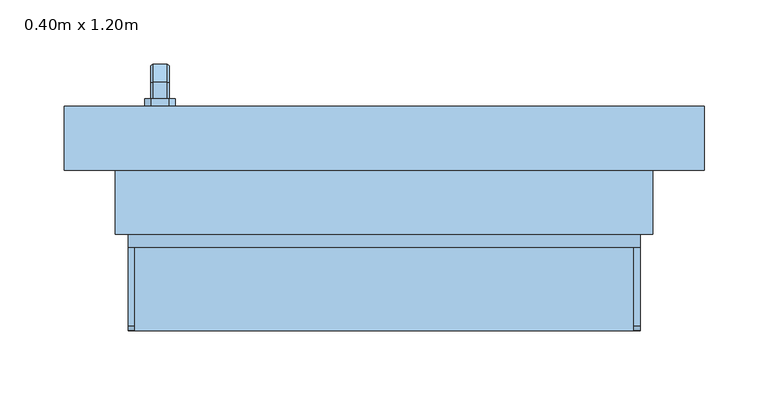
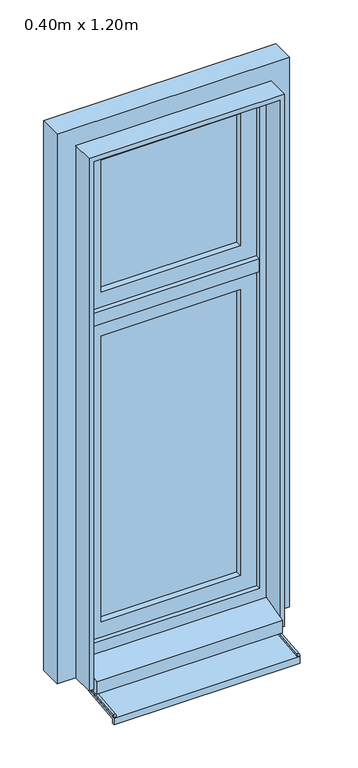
"""IFC4 building model written with IfcOpenShell, lengths in millimetres: window geometry, 1 Vantail - Imposte haute : 0.40m x 1.20m."""

import ifcopenshell
import ifcopenshell.guid

model = None  # the IFC model being written
_history = None  # IfcOwnerHistory: only IFC2X3 demands one
_inside = {}  # id of a spatial element -> (the spatial element, [elements in it])
_under = {}  # id of a project, library or spatial element -> (it, [spatial elements below it])
_declared = {}  # id of a project -> (the project, [libraries it declares])
_typed = {}  # id of a type object -> (the type object, [elements of that type])
_made_of = {}  # id of a material, layer set ... -> (it, [elements and type objects made of it])


def new_model(schema):
    """Start an empty IFC model of exactly this schema.

    Asked for "IFC4X3", IfcOpenShell would pick the latest addendum, in which some entities
    have other attributes; the version numbers below select the first issue.
    IFC2X3 requires an IfcOwnerHistory on every rooted entity: one is made here for all.
    """
    global model, _history
    if schema == "IFC4X3":
        model = ifcopenshell.file(schema_version=(4, 3, 0, 0))
    else:
        model = ifcopenshell.file(schema=schema)
    _inside.clear()
    _under.clear()
    _declared.clear()
    _typed.clear()
    _made_of.clear()
    _history = None
    if model.schema == "IFC2X3":
        org = make("IfcOrganization", Name="unknown")
        user = make(
            "IfcPersonAndOrganization",
            ThePerson=make("IfcPerson", FamilyName="unknown"),
            TheOrganization=org,
        )
        app = make(
            "IfcApplication",
            ApplicationDeveloper=org,
            Version="unknown",
            ApplicationFullName="unknown",
            ApplicationIdentifier="unknown",
        )
        _history = make(
            "IfcOwnerHistory",
            OwningUser=user,
            OwningApplication=app,
            ChangeAction="ADDED",
            CreationDate=0,
        )
    return model


def make(cls, **values):
    """One entity of the class cls with the attributes given. An attribute that is None is left unset."""
    return model.create_entity(
        cls, **{name: value for name, value in values.items() if value is not None}
    )


def rooted(cls, **values):
    """An entity with a GlobalId (a new one), such as an element, a storey or a relation."""
    return make(cls, GlobalId=ifcopenshell.guid.new(), OwnerHistory=_history, **values)


def si_unit(unit_type, name, prefix=None):
    """IfcSIUnit, for example si_unit("LENGTHUNIT", "METRE", prefix="MILLI")."""
    return make("IfcSIUnit", UnitType=unit_type, Prefix=prefix, Name=name)


def assignment(units):
    """IfcUnitAssignment: the units of a project."""
    return None if units is None else make("IfcUnitAssignment", Units=units)


def point(xyz):
    """IfcCartesianPoint."""
    return None if xyz is None else make("IfcCartesianPoint", Coordinates=xyz)


def direction(xyz):
    """IfcDirection."""
    return None if xyz is None else make("IfcDirection", DirectionRatios=xyz)


def frame(location, z_axis=None, x_axis=None):
    """IfcAxis2Placement3D, a coordinate frame: its origin and axes. An axis left out is left unset."""
    return make(
        "IfcAxis2Placement3D",
        Location=point(location),
        Axis=direction(z_axis),
        RefDirection=direction(x_axis),
    )


def frame_2d(location, x_axis=None):
    """IfcAxis2Placement2D, a coordinate frame in the plane: its origin and x axis."""
    return make(
        "IfcAxis2Placement2D", Location=point(location), RefDirection=direction(x_axis)
    )


def origin():
    """The frame at (0, 0, 0) with its axes left unset."""
    return frame((0.0, 0.0, 0.0))


def place(relative_to, where):
    """IfcLocalPlacement: puts the frame where relative to a parent placement (None: the world)."""
    return make(
        "IfcLocalPlacement", PlacementRelTo=relative_to, RelativePlacement=where
    )


def context(
    kind, dimensions, precision=None, world=None, true_north=None, identifier=None
):
    """IfcGeometricRepresentationContext, for example the 3D "Model" context."""
    return make(
        "IfcGeometricRepresentationContext",
        ContextIdentifier=identifier,
        ContextType=kind,
        CoordinateSpaceDimension=dimensions,
        Precision=precision,
        WorldCoordinateSystem=world,
        TrueNorth=true_north,
    )


def project(units=None, contexts=None):
    """IfcProject with its units and contexts."""
    return rooted(
        "IfcProject",
        Name="project",
        RepresentationContexts=contexts,
        UnitsInContext=assignment(units),
    )


def spatial(cls, under=None, at=None, **own):
    """A site, building, storey or space (cls), placed at a placement, below another one or the project."""
    s = rooted(cls, ObjectPlacement=at, **own)
    if under is not None:
        _under.setdefault(under.id(), (under, []))[1].append(s)
    return s


def polyline(points):
    """IfcPolyline through the points."""
    return make("IfcPolyline", Points=[point(p) for p in points])


def circle_curve(where, radius):
    """IfcCircle in the frame where."""
    return make("IfcCircle", Position=where, Radius=radius)


def trimmed(basis, trim1, trim2, sense, master):
    """IfcTrimmedCurve: the piece of a basis curve between two trims."""
    return make(
        "IfcTrimmedCurve",
        BasisCurve=basis,
        Trim1=trim1,
        Trim2=trim2,
        SenseAgreement=sense,
        MasterRepresentation=master,
    )


def segment(curve, same_sense, transition):
    """IfcCompositeCurveSegment."""
    return make(
        "IfcCompositeCurveSegment",
        Transition=transition,
        SameSense=same_sense,
        ParentCurve=curve,
    )


def composite_curve(segments, self_intersect=None):
    """IfcCompositeCurve: segments joined end to end."""
    return make("IfcCompositeCurve", Segments=segments, SelfIntersect=self_intersect)


def outline(outer, holes=None, kind="AREA"):
    """IfcArbitraryClosedProfileDef: a profile drawn as a closed curve; with holes, ...WithVoids."""
    if holes is None:
        return make("IfcArbitraryClosedProfileDef", ProfileType=kind, OuterCurve=outer)
    return make(
        "IfcArbitraryProfileDefWithVoids",
        ProfileType=kind,
        OuterCurve=outer,
        InnerCurves=holes,
    )


def extrude(swept, where, along, depth):
    """IfcExtrudedAreaSolid: the profile swept, set in the frame where, extruded along a direction by depth."""
    return make(
        "IfcExtrudedAreaSolid",
        SweptArea=swept,
        Position=where,
        ExtrudedDirection=direction(along),
        Depth=depth,
    )


def faces_of(points, faces, orient=None, outer=None):
    """IfcFace entities. A face is a list of loops; a loop is a list of indices into points, from 0.

    orient and outer hold one flag for each loop. By default every Orientation is true, the
    first loop of a face is its IfcFaceOuterBound and the others are IfcFaceBound.
    """
    made = []
    for i, loops in enumerate(faces):
        bounds = []
        for j, loop in enumerate(loops):
            is_outer = j == 0 if outer is None else outer[i][j]
            bounds.append(
                make(
                    "IfcFaceOuterBound" if is_outer else "IfcFaceBound",
                    Bound=make("IfcPolyLoop", Polygon=[points[k] for k in loop]),
                    Orientation=True if orient is None else orient[i][j],
                )
            )
        made.append(make("IfcFace", Bounds=bounds))
    return made


def faceted_brep(points, faces, orient=None, outer=None, voids=None):
    """IfcFacetedBrep: a solid bounded by flat faces; with voids (closed shells), ...WithVoids."""
    shared = [point(p) for p in points]
    hull = make("IfcClosedShell", CfsFaces=faces_of(shared, faces, orient, outer))
    if voids is None:
        return make("IfcFacetedBrep", Outer=hull)
    return make(
        "IfcFacetedBrepWithVoids",
        Outer=hull,
        Voids=[
            make(cls, CfsFaces=faces_of(shared, fs, o, b)) for cls, fs, o, b in voids
        ],
    )


def shape(context_of_items, identifier, shape_type, items):
    """IfcShapeRepresentation: the items that make up one representation, for example the "Body"."""
    return make(
        "IfcShapeRepresentation",
        ContextOfItems=context_of_items,
        RepresentationIdentifier=identifier,
        RepresentationType=shape_type,
        Items=items,
    )


def source(mapping_origin, context_of_items, identifier, shape_type, items):
    """IfcRepresentationMap: a shape defined once, which mapped items show again and again."""
    return make(
        "IfcRepresentationMap",
        MappingOrigin=mapping_origin,
        MappedRepresentation=shape(context_of_items, identifier, shape_type, items),
    )


def transform(
    local_origin,
    x_axis=None,
    y_axis=None,
    z_axis=None,
    scale=None,
    scale2=None,
    scale3=None,
    uniform=True,
):
    """IfcCartesianTransformationOperator3D, or its non-uniform kind. x_axis, y_axis, z_axis: its Axis1, 2, 3."""
    if uniform:
        return make(
            "IfcCartesianTransformationOperator3D",
            Axis1=direction(x_axis),
            Axis2=direction(y_axis),
            LocalOrigin=point(local_origin),
            Scale=scale,
            Axis3=direction(z_axis),
        )
    return make(
        "IfcCartesianTransformationOperator3DnonUniform",
        Axis1=direction(x_axis),
        Axis2=direction(y_axis),
        LocalOrigin=point(local_origin),
        Scale=scale,
        Axis3=direction(z_axis),
        Scale2=scale2,
        Scale3=scale3,
    )


def mapped(mapping_source, mapping_target):
    """IfcMappedItem: shows the shape of a source again, moved by a transform."""
    return make(
        "IfcMappedItem", MappingSource=mapping_source, MappingTarget=mapping_target
    )


def made_of(thing, what):
    """Note that an element or type object is made of a material, layer set ...; save() writes the relation."""
    if what is not None:
        _made_of.setdefault(what.id(), (what, []))[1].append(thing)
    return thing


def element(
    cls,
    number,
    at=None,
    inside=None,
    cuts=None,
    type_object=None,
    material=None,
    context=None,
    identifier="Body",
    shape_type=None,
    held_by="IfcProductDefinitionShape",
    body=None,
    shapes=None,
    **own,
):
    """One element of the class cls, such as IfcWall. Its Tag is "e" and its number.

    at: its placement. inside: the storey or other place that contains it. cuts: it is an
    opening in that element (IfcRelVoidsElement). A single representation is given by context,
    identifier, shape_type and body (its items); several are given by shapes. held_by: the class
    of the entity that holds the representations. save() writes the other relations.
    """
    e = rooted(cls, Tag="e%d" % number, ObjectPlacement=at, **own)
    if body is not None:
        shapes = [shape(context, identifier, shape_type, body)]
    if shapes is not None:
        e.Representation = make(held_by, Representations=shapes)
    if inside is not None:
        _inside.setdefault(inside.id(), (inside, []))[1].append(e)
    if cuts is not None:
        rooted(
            "IfcRelVoidsElement", RelatingBuildingElement=cuts, RelatedOpeningElement=e
        )
    if type_object is not None:
        _typed.setdefault(type_object.id(), (type_object, []))[1].append(e)
    return made_of(e, material)


def aggregate(whole, parts):
    """IfcRelAggregates: a whole, such as a stair, and the parts it consists of."""
    return rooted("IfcRelAggregates", RelatingObject=whole, RelatedObjects=parts)


def save(model, path):
    """Write the relations noted so far, then the file.

    IfcRelAggregates (storeys below a building ...), IfcRelContainedInSpatialStructure (elements
    in a storey), IfcRelDefinesByType, IfcRelAssociatesMaterial and IfcRelDeclares: one each for
    every whole, place, type object, material and project.
    """
    for whole, parts in _under.values():
        aggregate(whole, parts)
    for where, things in _inside.values():
        rooted(
            "IfcRelContainedInSpatialStructure",
            RelatedElements=things,
            RelatingStructure=where,
        )
    for kind, things in _typed.values():
        rooted("IfcRelDefinesByType", RelatedObjects=things, RelatingType=kind)
    for what, things in _made_of.values():
        rooted("IfcRelAssociatesMaterial", RelatedObjects=things, RelatingMaterial=what)
    for by, libraries in _declared.values():
        rooted("IfcRelDeclares", RelatingContext=by, RelatedDefinitions=libraries)
    model.write(path)


def window_0_40m_x_1_20m_34fc3aa1(model_context):
    return source(origin(), model_context, "Body", "SolidModel", [
        faceted_brep([(-169.3539903, 86.0, 1322.0339292), (-180.6460097, 86.0, 1322.0339292), (-182.0339292, 86.0, 1320.6460097), (-182.0339292, 86.0, 1309.3323012), (-180.6676988, 86.0, 1307.9660708), (-169.3323012, 86.0, 1307.9660708), (-167.9660708, 86.0, 1309.3323012), (-167.9660708, 86.0, 1320.6460097), (-167.9660708, 98.3386538, 1320.6460097), (-169.3539903, 98.9135489, 1322.0339292), (-167.9660708, 93.6523623, 1309.3323012), (-167.9660708, 100.3323012, 1302.6523623), (-167.9660708, 100.3323012, 1220.0), (-167.9660708, 111.6460097, 1220.0), (-167.9660708, 111.6460097, 1307.3386538), (-169.3323012, 93.0864511, 1307.9660708), (-180.6676988, 93.0864511, 1307.9660708), (-182.0339292, 93.6523623, 1309.3323012), (-182.0339292, 98.3386538, 1320.6460097), (-182.0339292, 111.6460097, 1307.3386538), (-182.0339292, 111.6460097, 1220.0), (-182.0339292, 100.3323012, 1220.0), (-182.0339292, 100.3323012, 1302.6523623), (-180.6460097, 98.9135489, 1322.0339292), (-169.3539903, 113.0339292, 1307.9135489), (-169.3323012, 98.9660708, 1302.0864511), (-180.6676988, 98.9660708, 1302.0864511), (-180.6460097, 113.0339292, 1307.9135489), (-169.3539903, 113.0339292, 1220.0), (-169.3323012, 98.9660708, 1220.0), (-180.6676988, 98.9660708, 1220.0), (-180.6460097, 113.0339292, 1220.0)], [[[0, 1, 2, 3, 4, 5, 6, 7]], [[7, 8, 9, 0]], [[6, 10, 11, 12, 13, 14, 8, 7]], [[5, 15, 10, 6]], [[4, 16, 15, 5]], [[3, 17, 16, 4]], [[2, 18, 19, 20, 21, 22, 17, 3]], [[1, 23, 18, 2]], [[0, 9, 23, 1]], [[8, 14, 24, 9]], [[15, 25, 11, 10]], [[16, 26, 25, 15]], [[17, 22, 26, 16]], [[23, 27, 19, 18]], [[9, 24, 27, 23]], [[28, 13, 12, 29, 30, 21, 20, 31]], [[14, 13, 28, 24]], [[25, 29, 12, 11]], [[26, 30, 29, 25]], [[22, 21, 30, 26]], [[27, 31, 20, 19]], [[24, 28, 31, 27]]]),
        extrude(outline(polyline([(1340.0, -168.0), (1340.0, -182.0), (1335.0, -187.0), (1265.0, -187.0), (1260.0, -182.0), (1260.0, -168.0), (1265.0, -163.0), (1335.0, -163.0), (1340.0, -168.0)])), frame((0.0, 80.0, 0.0), z_axis=(0.0, 1.0, 0.0), x_axis=(0.0, 0.0, 1.0)), (0.0, 0.0, 1.0), 6.0),
        extrude(outline(polyline([(-95.0, 780.2703094), (-5.0, 789.7296906), (-5.0, 800.0), (0.0, 800.0), (0.0, 785.0), (-90.0, 775.5406188), (-90.0, 765.2401141), (-95.0, 764.7145929), (-95.0, 780.2703094)])), frame((-200.0, 0.0, 0.0), z_axis=(1.0, 0.0, 0.0), x_axis=(0.0, 1.0, 0.0)), (0.0, 0.0, 1.0), 400.0),
        extrude(outline(composite_curve([segment(polyline([(-95.0, 780.2703094), (-95.0, 781.6962346)]), True, "CONTINUOUS"), segment(trimmed(circle_curve(frame_2d((-91.0, 781.6962346)), 4.0), [point((-95.0, 781.6962346))], [point((-91.4181139, 785.6743222))], False, "CARTESIAN"), True, "CONTINUOUS"), segment(polyline([(-91.4181139, 785.6743222), (-5.0, 794.757232), (-5.0, 789.7296906), (-95.0, 780.2703094)]), True, "CONTINUOUS")], self_intersect=False)), frame((-200.0, 0.0, 0.0), z_axis=(1.0, 0.0, 0.0), x_axis=(0.0, 1.0, 0.0)), (0.0, 0.0, 1.0), 5.0),
        extrude(outline(composite_curve([segment(polyline([(-95.0, 780.2703094), (-95.0, 781.6962346)]), True, "CONTINUOUS"), segment(trimmed(circle_curve(frame_2d((-91.0, 781.6962346)), 4.0), [point((-95.0, 781.6962346))], [point((-91.4181139, 785.6743222))], False, "CARTESIAN"), True, "CONTINUOUS"), segment(polyline([(-91.4181139, 785.6743222), (-5.0, 794.757232), (-5.0, 789.7296906), (-95.0, 780.2703094)]), True, "CONTINUOUS")], self_intersect=False)), frame((195.0, 0.0, 0.0), z_axis=(1.0, 0.0, 0.0), x_axis=(0.0, 1.0, 0.0)), (0.0, 0.0, 1.0), 5.0),
        extrude(outline(polyline([(-150.0, 54.0), (-150.0, 66.0), (150.0, 66.0), (150.0, 54.0), (-150.0, 54.0)])), frame((0.0, 0.0, 900.0), z_axis=(0.0, 0.0, 1.0), x_axis=(1.0, 0.0, 0.0)), (0.0, 0.0, 1.0), 650.0),
        extrude(outline(polyline([(-150.0, 54.0), (-150.0, 66.0), (150.0, 66.0), (150.0, 54.0), (-150.0, 54.0)])), frame((0.0, 0.0, 1650.0), z_axis=(0.0, 0.0, 1.0), x_axis=(1.0, 0.0, 0.0)), (0.0, 0.0, 1.0), 300.0),
        extrude(outline(polyline([(850.0, -200.0), (850.0, 200.0), (1600.0, 200.0), (1600.0, -200.0), (850.0, -200.0)]), holes=[polyline([(900.0, 150.0), (900.0, -150.0), (1550.0, -150.0), (1550.0, 150.0), (900.0, 150.0)])]), frame((0.0, 40.0, 0.0), z_axis=(0.0, 1.0, 0.0), x_axis=(0.0, 0.0, 1.0)), (0.0, 0.0, 1.0), 40.0),
        faceted_brep([(-250.0, 80.0, 800.0), (250.0, 80.0, 800.0), (250.0, 30.0, 800.0), (200.0, 30.0, 800.0), (200.0, -20.0, 800.0), (-200.0, -20.0, 800.0), (-200.0, 30.0, 800.0), (-250.0, 30.0, 800.0), (-250.0, 30.0, 2050.0), (-250.0, 80.0, 2050.0), (-200.0, 30.0, 839.3761425), (200.0, 30.0, 839.3761425), (250.0, 30.0, 2050.0), (-185.0, 30.0, 1985.0), (185.0, 30.0, 1985.0), (185.0, 30.0, 865.0), (-185.0, 30.0, 865.0), (-200.0, -20.0, 795.0), (-200.0, -30.0, 795.0), (-200.0, -30.0, 823.2991909), (200.0, -20.0, 795.0), (200.0, -30.0, 823.2991909), (200.0, -30.0, 795.0), (250.0, 80.0, 2050.0), (200.0, 80.0, 2000.0), (-200.0, 80.0, 2000.0), (-200.0, 80.0, 850.0), (200.0, 80.0, 850.0), (-185.0, 40.0, 865.0), (-185.0, 40.0, 1985.0), (185.0, 40.0, 865.0), (185.0, 40.0, 1985.0), (200.0, 40.0, 2000.0), (200.0, 40.0, 850.0), (-200.0, 40.0, 850.0), (-200.0, 40.0, 2000.0)], [[[0, 1, 2, 3, 4, 5, 6, 7]], [[7, 8, 9, 0]], [[7, 6, 10, 11, 3, 2, 12, 8], [13, 14, 15, 16]], [[10, 6, 5, 17, 18, 19]], [[5, 4, 20, 17]], [[4, 3, 11, 21, 22, 20]], [[2, 1, 23, 12]], [[0, 9, 23, 1], [24, 25, 26, 27]], [[13, 16, 28, 29]], [[28, 16, 15, 30]], [[31, 30, 15, 14]], [[19, 21, 11, 10]], [[32, 33, 34, 35], [29, 28, 30, 31]], [[34, 26, 25, 35]], [[26, 34, 33, 27]], [[24, 27, 33, 32]], [[18, 22, 21, 19]], [[17, 20, 22, 18]], [[13, 29, 31, 14]], [[35, 25, 24, 32]], [[12, 23, 9, 8]]]),
        extrude(outline(polyline([(800.0, -200.0), (2000.0, -200.0), (2000.0, 200.0), (800.0, 200.0), (800.0, 210.0), (2010.0, 210.0), (2010.0, -210.0), (800.0, -210.0), (800.0, -200.0)])), frame((0.0, -20.0, 0.0), z_axis=(0.0, 1.0, 0.0), x_axis=(0.0, 0.0, 1.0)), (0.0, 0.0, 1.0), 50.0),
        extrude(outline(polyline([(185.0, 30.0), (-185.0, 30.0), (-185.0, 40.0), (185.0, 40.0), (185.0, 30.0)])), frame((0.0, 0.0, 1585.0), z_axis=(0.0, 0.0, 1.0), x_axis=(1.0, 0.0, 0.0)), (0.0, 0.0, 1.0), 30.0),
        extrude(outline(polyline([(2000.0, -200.0), (1600.0, -200.0), (1600.0, 200.0), (2000.0, 200.0), (2000.0, -200.0)]), holes=[polyline([(1650.0, -150.0), (1950.0, -150.0), (1950.0, 150.0), (1650.0, 150.0), (1650.0, -150.0)])]), frame((0.0, 40.0, 0.0), z_axis=(0.0, 1.0, 0.0), x_axis=(0.0, 0.0, 1.0)), (0.0, 0.0, 1.0), 40.0),
    ])


if __name__ == "__main__":
    model = new_model("IFC4")
    model_context = context("Model", 3, world=origin())
    ifc_project = project(units=[si_unit("LENGTHUNIT", "METRE", prefix="MILLI")], contexts=[model_context])
    site = spatial("IfcSite", under=ifc_project)
    building = spatial("IfcBuilding", under=site)
    placement = place(None, origin())
    window_0_40m_x_1_20m_shape = window_0_40m_x_1_20m_34fc3aa1(model_context)
    element("IfcWindow", 1, ObjectType="1 Vantail - Imposte haute : 0.40m x 1.20m", at=placement, inside=building, context=model_context, shape_type="MappedRepresentation", body=[
        mapped(window_0_40m_x_1_20m_shape, transform((0.0, 0.0, 0.0), x_axis=(1.0, 0.0, 0.0), y_axis=(0.0, 1.0, 0.0), z_axis=(0.0, 0.0, 1.0))),
    ])
    save(model, "model.ifc")
